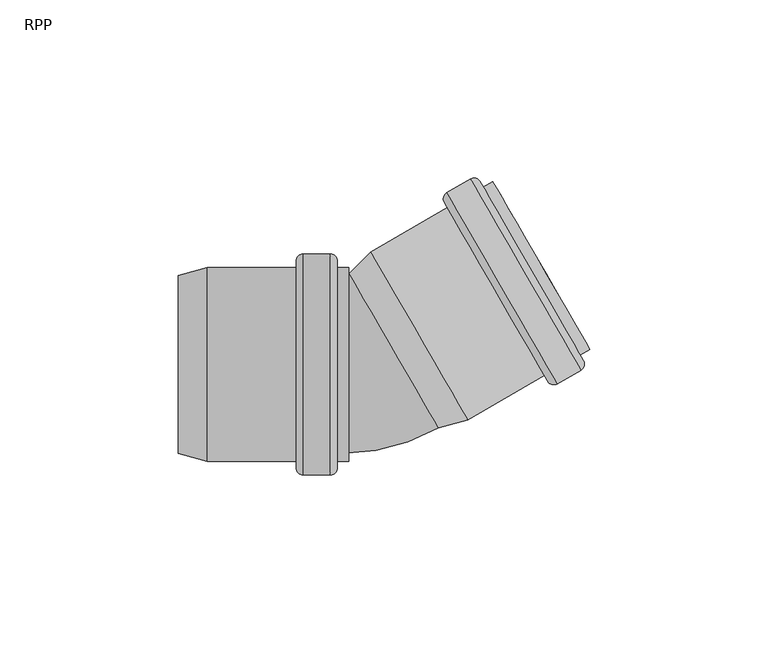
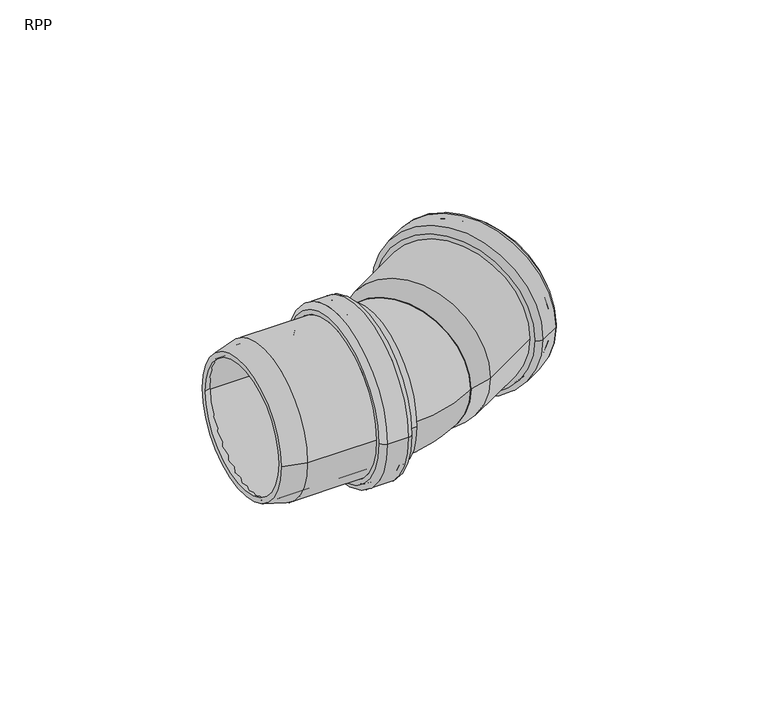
"""IFC4 building model written with IfcOpenShell, lengths in millimetres: pipe fitting geometry, RAUPIANO PLUS Bend : RPP."""

from ifc_helpers import new_model, si_unit, point, frame, origin, place, context, project, spatial, polyline, circle_curve, ellipse_curve, trimmed, source, transform, mapped, element, save
from ifc_brep_helpers import plane_surface, cylinder_surface, revolved_surface, advanced_brep


def rpp_2e0a0249(model_context):
    return source(origin(), model_context, "Body", "AdvancedBrep", [
        advanced_brep(
        [(-18.7705266, -25.3, 0.0), (-18.7705266, 25.3, 0.0), (-45.3098751, 25.3, 0.0), (-45.3098751, -25.3, 0.0), (-18.2705266, -29.1, 0.0), (-18.2705266, 29.1, 0.0), (-18.7705266, 28.6, 0.0), (-18.7705266, -28.6, 0.0), (-11.4705266, -29.1, 0.0), (-11.4705266, 29.1, 0.0), (-10.9705266, -28.6, 0.0), (-10.9705266, 28.6, 0.0), (-5.9705266, -25.3, 0.0), (-5.9705266, 25.3, 0.0), (-10.9705266, 25.3, 0.0), (-10.9705266, -25.3, 0.0), (-9.0705266, -27.2, 0.0), (-9.0705266, 27.2, 0.0), (-5.9705266, 27.2, 0.0), (-5.9705266, -27.2, 0.0), (-11.0705266, -31.0, 0.0), (-11.0705266, 31.0, 0.0), (-9.0705266, 29.0, 0.0), (-9.0705266, -29.0, 0.0), (-18.6705266, -31.0, 0.0), (-18.6705266, 31.0, 0.0), (-20.6705266, -29.0, 0.0), (-20.6705266, 29.0, 0.0), (-45.5600148, -27.2, 0.0), (-45.5600148, 27.2, 0.0), (-20.6705266, 27.2, 0.0), (-20.6705266, -27.2, 0.0), (-53.7705266, -25.0, 0.0), (-53.7705266, 25.0, 0.0), (-53.7705266, 23.0329753, 0.0), (-53.7705266, -23.0329753, 0.0)],
        [
            (0, 1, circle_curve(frame((-18.7705266, 0.0, 0.0), z_axis=(1.0, 0.0, 0.0), x_axis=(0.0, 1.0, 0.0)), 25.3)),
            (1, 2),
            (2, 3, circle_curve(frame((-45.3098751, 0.0, 0.0), z_axis=(-1.0, 0.0, 0.0), x_axis=(0.0, 1.0, 0.0)), 25.3)),
            (3, 0),
            (4, 5, circle_curve(frame((-18.2705266, 0.0, 0.0), z_axis=(1.0, 0.0, 0.0), x_axis=(0.0, 1.0, 0.0)), 29.1)),
            (5, 6, circle_curve(frame((-18.2705266, 28.6, 0.0), z_axis=(0.0, 0.0, 1.0), x_axis=(0.0, -1.0, 0.0)), 0.5)),
            (6, 7, circle_curve(frame((-18.7705266, 0.0, 0.0), z_axis=(-1.0, 0.0, 0.0), x_axis=(0.0, 1.0, 0.0)), 28.6)),
            (7, 4, circle_curve(frame((-18.2705266, -28.6, 0.0), z_axis=(0.0, 0.0, 1.0), x_axis=(0.0, 1.0, 0.0)), 0.5)),
            (8, 9, circle_curve(frame((-11.4705266, 0.0, 0.0), z_axis=(1.0, 0.0, 0.0), x_axis=(0.0, 1.0, 0.0)), 29.1)),
            (9, 5),
            (4, 8),
            (10, 11, circle_curve(frame((-10.9705266, 0.0, 0.0), z_axis=(1.0, 0.0, 0.0), x_axis=(0.0, 1.0, 0.0)), 28.6)),
            (11, 9, circle_curve(frame((-11.4705266, 28.6, 0.0), z_axis=(0.0, 0.0, 1.0), x_axis=(0.0, -1.0, 0.0)), 0.5)),
            (8, 10, circle_curve(frame((-11.4705266, -28.6, 0.0), z_axis=(0.0, 0.0, 1.0), x_axis=(0.0, 1.0, 0.0)), 0.5)),
            (12, 13, circle_curve(frame((-5.9705266, 0.0, 0.0), z_axis=(1.0, 0.0, 0.0), x_axis=(0.0, 1.0, 0.0)), 25.3)),
            (13, 14),
            (14, 15, circle_curve(frame((-10.9705266, 0.0, 0.0), z_axis=(-1.0, 0.0, 0.0), x_axis=(0.0, 1.0, 0.0)), 25.3)),
            (15, 12),
            (16, 17, circle_curve(frame((-9.0705266, 0.0, 0.0), z_axis=(1.0, 0.0, 0.0), x_axis=(0.0, 1.0, 0.0)), 27.2)),
            (17, 18),
            (18, 19, circle_curve(frame((-5.9705266, 0.0, 0.0), z_axis=(-1.0, 0.0, 0.0), x_axis=(0.0, 1.0, 0.0)), 27.2)),
            (19, 16),
            (20, 21, circle_curve(frame((-11.0705266, 0.0, 0.0), z_axis=(1.0, 0.0, 0.0), x_axis=(0.0, 1.0, 0.0)), 31.0)),
            (21, 22, circle_curve(frame((-11.0705266, 29.0, 0.0), z_axis=(0.0, 0.0, -1.0), x_axis=(0.0, -1.0, 0.0)), 2.0)),
            (22, 23, circle_curve(frame((-9.0705266, 0.0, 0.0), z_axis=(-1.0, 0.0, 0.0), x_axis=(0.0, 1.0, 0.0)), 29.0)),
            (23, 20, circle_curve(frame((-11.0705266, -29.0, 0.0), z_axis=(0.0, 0.0, -1.0), x_axis=(0.0, 1.0, 0.0)), 2.0)),
            (24, 25, circle_curve(frame((-18.6705266, 0.0, 0.0), z_axis=(1.0, 0.0, 0.0), x_axis=(0.0, 1.0, 0.0)), 31.0)),
            (25, 21),
            (20, 24),
            (26, 27, circle_curve(frame((-20.6705266, 0.0, 0.0), z_axis=(1.0, 0.0, 0.0), x_axis=(0.0, 1.0, 0.0)), 29.0)),
            (27, 25, circle_curve(frame((-18.6705266, 29.0, 0.0), z_axis=(0.0, 0.0, -1.0), x_axis=(0.0, -1.0, 0.0)), 2.0)),
            (24, 26, circle_curve(frame((-18.6705266, -29.0, 0.0), z_axis=(0.0, 0.0, -1.0), x_axis=(0.0, 1.0, 0.0)), 2.0)),
            (28, 29, circle_curve(frame((-45.5600148, 0.0, 0.0), z_axis=(1.0, 0.0, 0.0), x_axis=(0.0, 1.0, 0.0)), 27.2)),
            (29, 30),
            (30, 31, circle_curve(frame((-20.6705266, 0.0, 0.0), z_axis=(-1.0, 0.0, 0.0), x_axis=(0.0, 1.0, 0.0)), 27.2)),
            (31, 28),
            (32, 33, circle_curve(frame((-53.7705266, 0.0, 0.0), z_axis=(1.0, 0.0, 0.0), x_axis=(0.0, 1.0, 0.0)), 25.0)),
            (33, 29),
            (28, 32),
            (2, 34),
            (34, 35, circle_curve(frame((-53.7705266, 0.0, 0.0), z_axis=(-1.0, 0.0, 0.0), x_axis=(0.0, 1.0, 0.0)), 23.0329753)),
            (35, 3),
            (1, 0, circle_curve(frame((-18.7705266, 0.0, 0.0), z_axis=(1.0, 0.0, 0.0), x_axis=(0.0, -1.0, 0.0)), 25.3)),
            (3, 2, circle_curve(frame((-45.3098751, 0.0, 0.0), z_axis=(-1.0, 0.0, 0.0), x_axis=(0.0, -1.0, 0.0)), 25.3)),
            (6, 7, circle_curve(frame((-18.7705266, 0.0, 0.0), z_axis=(1.0, 0.0, 0.0), x_axis=(0.0, -1.0, 0.0)), 28.6)),
            (5, 4, circle_curve(frame((-18.2705266, 0.0, 0.0), z_axis=(1.0, 0.0, 0.0), x_axis=(0.0, -1.0, 0.0)), 29.1)),
            (9, 8, circle_curve(frame((-11.4705266, 0.0, 0.0), z_axis=(1.0, 0.0, 0.0), x_axis=(0.0, -1.0, 0.0)), 29.1)),
            (11, 10, circle_curve(frame((-10.9705266, 0.0, 0.0), z_axis=(1.0, 0.0, 0.0), x_axis=(0.0, -1.0, 0.0)), 28.6)),
            (14, 15, circle_curve(frame((-10.9705266, 0.0, 0.0), z_axis=(1.0, 0.0, 0.0), x_axis=(0.0, -1.0, 0.0)), 25.3)),
            (13, 12, circle_curve(frame((-5.9705266, 0.0, 0.0), z_axis=(1.0, 0.0, 0.0), x_axis=(0.0, -1.0, 0.0)), 25.3)),
            (18, 19, circle_curve(frame((-5.9705266, 0.0, 0.0), z_axis=(1.0, 0.0, 0.0), x_axis=(0.0, -1.0, 0.0)), 27.2)),
            (17, 16, circle_curve(frame((-9.0705266, 0.0, 0.0), z_axis=(1.0, 0.0, 0.0), x_axis=(0.0, -1.0, 0.0)), 27.2)),
            (22, 23, circle_curve(frame((-9.0705266, 0.0, 0.0), z_axis=(1.0, 0.0, 0.0), x_axis=(0.0, -1.0, 0.0)), 29.0)),
            (21, 20, circle_curve(frame((-11.0705266, 0.0, 0.0), z_axis=(1.0, 0.0, 0.0), x_axis=(0.0, -1.0, 0.0)), 31.0)),
            (25, 24, circle_curve(frame((-18.6705266, 0.0, 0.0), z_axis=(1.0, 0.0, 0.0), x_axis=(0.0, -1.0, 0.0)), 31.0)),
            (27, 26, circle_curve(frame((-20.6705266, 0.0, 0.0), z_axis=(1.0, 0.0, 0.0), x_axis=(0.0, -1.0, 0.0)), 29.0)),
            (30, 31, circle_curve(frame((-20.6705266, 0.0, 0.0), z_axis=(1.0, 0.0, 0.0), x_axis=(0.0, -1.0, 0.0)), 27.2)),
            (29, 28, circle_curve(frame((-45.5600148, 0.0, 0.0), z_axis=(1.0, 0.0, 0.0), x_axis=(0.0, -1.0, 0.0)), 27.2)),
            (33, 32, circle_curve(frame((-53.7705266, 0.0, 0.0), z_axis=(1.0, 0.0, 0.0), x_axis=(0.0, -1.0, 0.0)), 25.0)),
            (34, 35, circle_curve(frame((-53.7705266, 0.0, 0.0), z_axis=(1.0, 0.0, 0.0), x_axis=(0.0, -1.0, 0.0)), 23.0329753)),
        ],
        [
            revolved_surface(polyline([(-45.3098751, 25.3, 0.0), (-18.770526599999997, 25.3, 0.0)]), (-53.7705266, 0.0, 0.0), (-1.0, 0.0, 0.0)),
            revolved_surface(trimmed(ellipse_curve(frame((-18.2705266, 28.6, 0.0), z_axis=(0.0, 0.0, -1.0), x_axis=(0.0, -1.0, 0.0)), 0.5, 0.5), [point((-18.7705266, 28.6, 0.0))], [point((-18.2705266, 29.1, 0.0))], True, "CARTESIAN"), (-53.7705266, 0.0, 0.0), (-1.0, 0.0, 0.0)),
            revolved_surface(polyline([(-18.270526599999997, 29.1, 0.0), (-11.4705266, 29.1, 0.0)]), (-53.7705266, 0.0, 0.0), (-1.0, 0.0, 0.0)),
            revolved_surface(trimmed(ellipse_curve(frame((-11.4705266, 28.6, 0.0), z_axis=(0.0, 0.0, -1.0), x_axis=(0.0, -1.0, 0.0)), 0.5, 0.5), [point((-11.4705266, 29.1, 0.0))], [point((-10.9705266, 28.6, 0.0))], True, "CARTESIAN"), (-53.7705266, 0.0, 0.0), (-1.0, 0.0, 0.0)),
            revolved_surface(polyline([(-10.9705266, 25.3, 0.0), (-5.9705265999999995, 25.3, 0.0)]), (-53.7705266, 0.0, 0.0), (-1.0, 0.0, 0.0)),
            cylinder_surface(frame((-53.7705266, 0.0, 0.0), z_axis=(-1.0, 0.0, 0.0), x_axis=(0.0, 1.0, 0.0)), 27.2),
            revolved_surface(trimmed(ellipse_curve(frame((-11.0705266, 29.0, 0.0), z_axis=(0.0, 0.0, 1.0), x_axis=(0.0, -1.0, 0.0)), 2.0, 2.0), [point((-9.0705266, 29.0, 0.0))], [point((-11.0705266, 31.0, 0.0))], True, "CARTESIAN"), (-53.7705266, 0.0, 0.0), (-1.0, 0.0, 0.0)),
            cylinder_surface(frame((-53.7705266, 0.0, 0.0), z_axis=(-1.0, 0.0, 0.0), x_axis=(0.0, 1.0, 0.0)), 31.0),
            revolved_surface(trimmed(ellipse_curve(frame((-18.6705266, 29.0, 0.0), z_axis=(0.0, 0.0, 1.0), x_axis=(0.0, -1.0, 0.0)), 2.0, 2.0), [point((-18.6705266, 31.0, 0.0))], [point((-20.6705266, 29.0, 0.0))], True, "CARTESIAN"), (-53.7705266, 0.0, 0.0), (-1.0, 0.0, 0.0)),
            revolved_surface(polyline([(-45.5600148, 27.2, 0.0), (-53.7705266, 25.0, 0.0)]), (-53.7705266, 0.0, 0.0), (-1.0, 0.0, 0.0)),
            revolved_surface(polyline([(-53.7705266, 23.0329753, 0.0), (-45.3098751, 25.3, 0.0)]), (-53.7705266, 0.0, 0.0), (-1.0, 0.0, 0.0)),
            revolved_surface(polyline([(-45.3098751, -25.3, 0.0), (-18.770526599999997, -25.3, 0.0)]), (-53.7705266, 0.0, 0.0), (-1.0, 0.0, 0.0)),
            plane_surface(frame((-18.7705266, 0.0, 0.0), z_axis=(1.0, 0.0, 0.0), x_axis=(0.0, -1.0, 0.0))),
            revolved_surface(trimmed(ellipse_curve(frame((-18.2705266, -28.6, 0.0), z_axis=(0.0, 0.0, 1.0), x_axis=(0.0, 1.0, 0.0)), 0.5, 0.5), [point((-18.7705266, -28.6, 0.0))], [point((-18.2705266, -29.1, 0.0))], True, "CARTESIAN"), (-53.7705266, 0.0, 0.0), (-1.0, 0.0, 0.0)),
            revolved_surface(polyline([(-18.270526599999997, -29.1, 0.0), (-11.4705266, -29.1, 0.0)]), (-53.7705266, 0.0, 0.0), (-1.0, 0.0, 0.0)),
            revolved_surface(trimmed(ellipse_curve(frame((-11.4705266, -28.6, 0.0), z_axis=(0.0, 0.0, 1.0), x_axis=(0.0, 1.0, 0.0)), 0.5, 0.5), [point((-11.4705266, -29.1, 0.0))], [point((-10.9705266, -28.6, 0.0))], True, "CARTESIAN"), (-53.7705266, 0.0, 0.0), (-1.0, 0.0, 0.0)),
            plane_surface(frame((-10.9705266, 0.0, 0.0), z_axis=(-1.0, 0.0, 0.0), x_axis=(0.0, -1.0, 0.0))),
            revolved_surface(polyline([(-10.9705266, -25.3, 0.0), (-5.9705265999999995, -25.3, 0.0)]), (-53.7705266, 0.0, 0.0), (-1.0, 0.0, 0.0)),
            plane_surface(frame((-5.9705266, 0.0, 0.0), z_axis=(1.0, 0.0, 0.0), x_axis=(0.0, -1.0, 0.0))),
            cylinder_surface(frame((-53.7705266, 0.0, 0.0), z_axis=(-1.0, 0.0, 0.0), x_axis=(0.0, -1.0, 0.0)), 27.2),
            plane_surface(frame((-9.0705266, 0.0, 0.0), z_axis=(1.0, 0.0, 0.0), x_axis=(0.0, -1.0, 0.0))),
            revolved_surface(trimmed(ellipse_curve(frame((-11.0705266, -29.0, 0.0), z_axis=(0.0, 0.0, -1.0), x_axis=(0.0, 1.0, 0.0)), 2.0, 2.0), [point((-9.0705266, -29.0, 0.0))], [point((-11.0705266, -31.0, 0.0))], True, "CARTESIAN"), (-53.7705266, 0.0, 0.0), (-1.0, 0.0, 0.0)),
            cylinder_surface(frame((-53.7705266, 0.0, 0.0), z_axis=(-1.0, 0.0, 0.0), x_axis=(0.0, -1.0, 0.0)), 31.0),
            revolved_surface(trimmed(ellipse_curve(frame((-18.6705266, -29.0, 0.0), z_axis=(0.0, 0.0, -1.0), x_axis=(0.0, 1.0, 0.0)), 2.0, 2.0), [point((-18.6705266, -31.0, 0.0))], [point((-20.6705266, -29.0, 0.0))], True, "CARTESIAN"), (-53.7705266, 0.0, 0.0), (-1.0, 0.0, 0.0)),
            plane_surface(frame((-20.6705266, 0.0, 0.0), z_axis=(-1.0, 0.0, 0.0), x_axis=(0.0, -1.0, 0.0))),
            revolved_surface(polyline([(-45.5600148, -27.2, 0.0), (-53.7705266, -25.0, 0.0)]), (-53.7705266, 0.0, 0.0), (-1.0, 0.0, 0.0)),
            plane_surface(frame((-53.7705266, 0.0, 0.0), z_axis=(-1.0, 0.0, 0.0), x_axis=(0.0, -1.0, 0.0))),
            revolved_surface(polyline([(-53.7705266, -23.0329753, 0.0), (-45.3098751, -25.3, 0.0)]), (-53.7705266, 0.0, 0.0), (-1.0, 0.0, 0.0)),
        ],
        [
            (0, [[1, 2, 3, 4]]),
            (1, [[5, 6, 7, 8]]),
            (2, [[9, 10, -5, 11]]),
            (3, [[12, 13, -9, 14]]),
            (4, [[15, 16, 17, 18]]),
            (5, [[19, 20, 21, 22]]),
            (6, [[23, 24, 25, 26]]),
            (7, [[27, 28, -23, 29]]),
            (8, [[30, 31, -27, 32]]),
            (5, [[33, 34, 35, 36]]),
            (9, [[37, 38, -33, 39]]),
            (10, [[-3, 40, 41, 42]]),
            (11, [[43, -4, 44, -2]]),
            (12, [[45, -7], [-43, -1]]),
            (13, [[46, -8, -45, -6]]),
            (14, [[47, -11, -46, -10]]),
            (15, [[48, -14, -47, -13]]),
            (16, [[-48, -12], [49, -17]]),
            (17, [[50, -18, -49, -16]]),
            (18, [[51, -21], [-50, -15]]),
            (19, [[52, -22, -51, -20]]),
            (20, [[53, -25], [-52, -19]]),
            (21, [[54, -26, -53, -24]]),
            (22, [[55, -29, -54, -28]]),
            (23, [[56, -32, -55, -31]]),
            (24, [[-56, -30], [57, -35]]),
            (19, [[58, -36, -57, -34]]),
            (25, [[59, -39, -58, -38]]),
            (26, [[-59, -37], [60, -41]]),
            (27, [[-44, -42, -60, -40]]),
        ],
    ),
        advanced_brep(
        [(18.245961, -16.0618784, 0.0), (-4.7870142, 23.832405, 0.0), (1.4066126, 30.0260318, 0.0), (26.7066126, -13.7948537, 0.0), (27.4399852, -15.5653718, 0.0), (0.2399852, 31.5464102, 0.0), (-5.7705266, 25.5358984, 0.0), (19.2294734, -17.7653718, 0.0), (48.9949143, -3.1206277, 0.0), (21.7949143, 43.9911543, 0.0), (59.2087582, -1.6115242, 0.0), (28.2087582, 52.0820508, 0.0), (21.6269651, 48.2820508, 0.0), (52.6269651, -5.4115242, 0.0), (61.7254877, 4.2293723, 0.0), (34.5254877, 51.3411543, 0.0), (31.840809, 49.7911543, 0.0), (59.040809, 2.6793723, 0.0), (56.4453607, 3.3748206, 0.0), (31.1453607, 47.195706, 0.0), (35.4754877, 49.695706, 0.0), (60.7754877, 5.8748206, 0.0), (52.0233753, -3.566076, 0.0), (22.9233753, 46.8366025, 0.0), (28.812348, 50.2366025, 0.0), (57.912348, -0.166076, 0.0), (24.3903626, 43.295706, 0.0), (49.6903626, -0.5251794, 0.0), (20.8949143, 45.55, 0.0), (49.8949143, -4.6794734, 0.0), (59.940809, 1.1205266, 0.0), (30.940809, 51.35, 0.0), (29.4953607, 50.0535898, 0.0), (58.0953607, 0.5169367, 0.0), (51.3403626, -3.3830633, 0.0), (22.7403626, 46.1535898, 0.0)],
        [
            (0, 1, circle_curve(frame((6.7294734, 3.8852633, 0.0), z_axis=(-0.8660254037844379, -0.5000000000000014, 0.0), x_axis=(-0.5000000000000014, 0.8660254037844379, 0.0)), 23.0329753)),
            (1, 2),
            (2, 3, circle_curve(frame((14.0566126, 8.1155891, 0.0), z_axis=(0.8660254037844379, 0.5000000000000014, 0.0), x_axis=(-0.5000000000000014, 0.8660254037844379, 0.0)), 25.3)),
            (3, 0),
            (4, 5, circle_curve(frame((13.8399852, 7.9905192, 0.0), z_axis=(-0.8660254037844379, -0.5000000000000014, 0.0), x_axis=(-0.5000000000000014, 0.8660254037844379, 0.0)), 27.2)),
            (5, 6),
            (6, 7, circle_curve(frame((6.7294734, 3.8852633, 0.0), z_axis=(0.8660254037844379, 0.5000000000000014, 0.0), x_axis=(-0.5000000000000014, 0.8660254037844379, 0.0)), 25.0)),
            (7, 4),
            (8, 9, circle_curve(frame((35.3949143, 20.4352633, 0.0), z_axis=(-0.8660254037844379, -0.5000000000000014, 0.0), x_axis=(-0.5000000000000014, 0.8660254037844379, 0.0)), 27.2)),
            (9, 5),
            (4, 8),
            (10, 11, circle_curve(frame((43.7087582, 25.2352633, 0.0), z_axis=(-0.8660254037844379, -0.5000000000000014, 0.0), x_axis=(-0.5000000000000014, 0.8660254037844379, 0.0)), 31.0)),
            (11, 12),
            (12, 13, circle_curve(frame((37.1269651, 21.4352633, 0.0), z_axis=(0.8660254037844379, 0.5000000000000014, 0.0), x_axis=(-0.5000000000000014, 0.8660254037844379, 0.0)), 31.0)),
            (13, 10),
            (14, 15, circle_curve(frame((48.1254877, 27.7852633, 0.0), z_axis=(-0.8660254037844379, -0.5000000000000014, 0.0), x_axis=(-0.5000000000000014, 0.8660254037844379, 0.0)), 27.2)),
            (15, 16),
            (16, 17, circle_curve(frame((45.440809, 26.2352633, 0.0), z_axis=(0.8660254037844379, 0.5000000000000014, 0.0), x_axis=(-0.5000000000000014, 0.8660254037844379, 0.0)), 27.2)),
            (17, 14),
            (18, 19, circle_curve(frame((43.7953607, 25.2852633, 0.0), z_axis=(-0.8660254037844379, -0.5000000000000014, 0.0), x_axis=(-0.5000000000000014, 0.8660254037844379, 0.0)), 25.3)),
            (19, 20),
            (20, 21, circle_curve(frame((48.1254877, 27.7852633, 0.0), z_axis=(0.8660254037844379, 0.5000000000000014, 0.0), x_axis=(-0.5000000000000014, 0.8660254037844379, 0.0)), 25.3)),
            (21, 18),
            (22, 23, circle_curve(frame((37.4733753, 21.6352633, 0.0), z_axis=(-0.8660254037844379, -0.5000000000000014, 0.0), x_axis=(-0.5000000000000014, 0.8660254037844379, 0.0)), 29.1)),
            (23, 24),
            (24, 25, circle_curve(frame((43.362348, 25.0352633, 0.0), z_axis=(0.8660254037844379, 0.5000000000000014, 0.0), x_axis=(-0.5000000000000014, 0.8660254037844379, 0.0)), 29.1)),
            (25, 22),
            (2, 26),
            (26, 27, circle_curve(frame((37.0403626, 21.3852633, 0.0), z_axis=(0.8660254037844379, 0.5000000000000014, 0.0), x_axis=(-0.5000000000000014, 0.8660254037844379, 0.0)), 25.3)),
            (27, 3),
            (1, 0, circle_curve(frame((6.7294734, 3.8852633, 0.0), z_axis=(-0.8660254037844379, -0.5000000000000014, 0.0), x_axis=(0.5000000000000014, -0.8660254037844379, 0.0)), 23.0329753)),
            (3, 2, circle_curve(frame((14.0566126, 8.1155891, 0.0), z_axis=(0.8660254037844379, 0.5000000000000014, 0.0), x_axis=(0.5000000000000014, -0.8660254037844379, 0.0)), 25.3)),
            (6, 7, circle_curve(frame((6.7294734, 3.8852633, 0.0), z_axis=(-0.8660254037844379, -0.5000000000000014, 0.0), x_axis=(0.5000000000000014, -0.8660254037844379, 0.0)), 25.0)),
            (5, 4, circle_curve(frame((13.8399852, 7.9905192, 0.0), z_axis=(-0.8660254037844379, -0.5000000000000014, 0.0), x_axis=(0.5000000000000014, -0.8660254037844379, 0.0)), 27.2)),
            (9, 8, circle_curve(frame((35.3949143, 20.4352633, 0.0), z_axis=(-0.8660254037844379, -0.5000000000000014, 0.0), x_axis=(0.5000000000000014, -0.8660254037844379, 0.0)), 27.2)),
            (28, 29, circle_curve(frame((35.3949143, 20.4352633, 0.0), z_axis=(-0.8660254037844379, -0.5000000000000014, 0.0), x_axis=(0.5000000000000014, -0.8660254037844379, 0.0)), 29.0)),
            (29, 28, circle_curve(frame((35.3949143, 20.4352633, 0.0), z_axis=(-0.8660254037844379, -0.5000000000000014, 0.0), x_axis=(-0.5000000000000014, 0.8660254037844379, 0.0)), 29.0)),
            (11, 10, circle_curve(frame((43.7087582, 25.2352633, 0.0), z_axis=(-0.8660254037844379, -0.5000000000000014, 0.0), x_axis=(0.5000000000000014, -0.8660254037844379, 0.0)), 31.0)),
            (13, 12, circle_curve(frame((37.1269651, 21.4352633, 0.0), z_axis=(0.8660254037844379, 0.5000000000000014, 0.0), x_axis=(0.5000000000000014, -0.8660254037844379, 0.0)), 31.0)),
            (30, 31, circle_curve(frame((45.440809, 26.2352633, 0.0), z_axis=(0.8660254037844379, 0.5000000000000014, 0.0), x_axis=(0.5000000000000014, -0.8660254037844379, 0.0)), 29.0)),
            (31, 30, circle_curve(frame((45.440809, 26.2352633, 0.0), z_axis=(0.8660254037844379, 0.5000000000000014, 0.0), x_axis=(-0.5000000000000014, 0.8660254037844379, 0.0)), 29.0)),
            (16, 17, circle_curve(frame((45.440809, 26.2352633, 0.0), z_axis=(-0.8660254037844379, -0.5000000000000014, 0.0), x_axis=(0.5000000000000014, -0.8660254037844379, 0.0)), 27.2)),
            (15, 14, circle_curve(frame((48.1254877, 27.7852633, 0.0), z_axis=(-0.8660254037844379, -0.5000000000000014, 0.0), x_axis=(0.5000000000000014, -0.8660254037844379, 0.0)), 27.2)),
            (20, 21, circle_curve(frame((48.1254877, 27.7852633, 0.0), z_axis=(-0.8660254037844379, -0.5000000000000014, 0.0), x_axis=(0.5000000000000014, -0.8660254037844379, 0.0)), 25.3)),
            (19, 18, circle_curve(frame((43.7953607, 25.2852633, 0.0), z_axis=(-0.8660254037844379, -0.5000000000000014, 0.0), x_axis=(0.5000000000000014, -0.8660254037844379, 0.0)), 25.3)),
            (32, 33, circle_curve(frame((43.7953607, 25.2852633, 0.0), z_axis=(-0.8660254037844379, -0.5000000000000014, 0.0), x_axis=(0.5000000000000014, -0.8660254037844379, 0.0)), 28.6)),
            (33, 32, circle_curve(frame((43.7953607, 25.2852633, 0.0), z_axis=(-0.8660254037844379, -0.5000000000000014, 0.0), x_axis=(-0.5000000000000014, 0.8660254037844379, 0.0)), 28.6)),
            (23, 22, circle_curve(frame((37.4733753, 21.6352633, 0.0), z_axis=(-0.8660254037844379, -0.5000000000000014, 0.0), x_axis=(0.5000000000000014, -0.8660254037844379, 0.0)), 29.1)),
            (25, 24, circle_curve(frame((43.362348, 25.0352633, 0.0), z_axis=(0.8660254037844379, 0.5000000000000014, 0.0), x_axis=(0.5000000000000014, -0.8660254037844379, 0.0)), 29.1)),
            (34, 35, circle_curve(frame((37.0403626, 21.3852633, 0.0), z_axis=(0.8660254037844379, 0.5000000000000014, 0.0), x_axis=(0.5000000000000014, -0.8660254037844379, 0.0)), 28.6)),
            (35, 34, circle_curve(frame((37.0403626, 21.3852633, 0.0), z_axis=(0.8660254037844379, 0.5000000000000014, 0.0), x_axis=(-0.5000000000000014, 0.8660254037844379, 0.0)), 28.6)),
            (26, 27, circle_curve(frame((37.0403626, 21.3852633, 0.0), z_axis=(-0.8660254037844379, -0.5000000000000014, 0.0), x_axis=(0.5000000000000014, -0.8660254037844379, 0.0)), 25.3)),
            (12, 28, circle_curve(frame((22.6269651, 46.55, 0.0), z_axis=(0.0, 0.0, 1.0000000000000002), x_axis=(0.5000000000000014, -0.8660254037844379, 0.0)), 2.0)),
            (29, 13, circle_curve(frame((51.6269651, -3.6794734, 0.0), z_axis=(0.0, 0.0, 1.0000000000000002), x_axis=(-0.5000000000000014, 0.8660254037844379, 0.0)), 2.0)),
            (31, 11, circle_curve(frame((29.2087582, 50.35, 0.0), z_axis=(0.0, 0.0, 1.0000000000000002), x_axis=(0.5000000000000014, -0.8660254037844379, 0.0)), 2.0)),
            (10, 30, circle_curve(frame((58.2087582, 0.1205266, 0.0), z_axis=(0.0, 0.0, 1.0000000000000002), x_axis=(-0.5000000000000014, 0.8660254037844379, 0.0)), 2.0)),
            (24, 32, circle_curve(frame((29.062348, 49.8035898, 0.0), z_axis=(0.0, 0.0, -1.0000000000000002), x_axis=(0.5000000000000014, -0.8660254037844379, 0.0)), 0.5)),
            (33, 25, circle_curve(frame((57.662348, 0.2669367, 0.0), z_axis=(0.0, 0.0, -1.0000000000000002), x_axis=(-0.5000000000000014, 0.8660254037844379, 0.0)), 0.5)),
            (35, 23, circle_curve(frame((23.1733753, 46.4035898, 0.0), z_axis=(0.0, 0.0, -1.0000000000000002), x_axis=(0.5000000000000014, -0.8660254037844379, 0.0)), 0.5)),
            (22, 34, circle_curve(frame((51.7733753, -3.1330633, 0.0), z_axis=(0.0, 0.0, -1.0000000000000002), x_axis=(-0.5000000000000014, 0.8660254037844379, 0.0)), 0.5)),
        ],
        [
            revolved_surface(polyline([(1.4066126, 30.0260318, 0.0), (-4.7870142, 23.832405, 0.0)]), (6.7294734, 3.8852633, 0.0), (0.8660254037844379, 0.5000000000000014, 0.0)),
            revolved_surface(polyline([(-5.7705266, 25.5358984, 0.0), (0.2399852, 31.5464102, 0.0)]), (6.7294734, 3.8852633, 0.0), (0.8660254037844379, 0.5000000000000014, 0.0)),
            cylinder_surface(frame((6.7294734, 3.8852633, 0.0), z_axis=(0.8660254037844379, 0.5000000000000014, 0.0), x_axis=(-0.5000000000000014, 0.8660254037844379, 0.0)), 27.2),
            cylinder_surface(frame((6.7294734, 3.8852633, 0.0), z_axis=(0.8660254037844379, 0.5000000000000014, 0.0), x_axis=(-0.5000000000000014, 0.8660254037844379, 0.0)), 31.0),
            revolved_surface(polyline([(35.475487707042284, 49.69570601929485, 0.0), (31.14536068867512, 47.19570601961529, 0.0)]), (6.7294734, 3.8852633, 0.0), (0.8660254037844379, 0.5000000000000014, 0.0)),
            revolved_surface(polyline([(28.81234799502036, 50.236602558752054, 0.0), (22.923375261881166, 46.836602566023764, 0.0)]), (6.7294734, 3.8852633, 0.0), (0.8660254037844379, 0.5000000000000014, 0.0)),
            revolved_surface(polyline([(24.390362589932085, 43.295706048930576, 0.0), (1.4066125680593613, 30.026031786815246, 0.0)]), (6.7294734, 3.8852633, 0.0), (0.8660254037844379, 0.5000000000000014, 0.0)),
            revolved_surface(polyline([(26.7066126, -13.7948537, 0.0), (18.245961, -16.0618784, 0.0)]), (6.7294734, 3.8852633, 0.0), (0.8660254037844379, 0.5000000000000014, 0.0)),
            plane_surface(frame((6.7294734, 3.8852633, 0.0), z_axis=(-0.8660254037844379, -0.5000000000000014, 0.0), x_axis=(0.5000000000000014, -0.8660254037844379, 0.0))),
            revolved_surface(polyline([(19.2294734, -17.7653718, 0.0), (27.4399852, -15.5653718, 0.0)]), (6.7294734, 3.8852633, 0.0), (0.8660254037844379, 0.5000000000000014, 0.0)),
            cylinder_surface(frame((6.7294734, 3.8852633, 0.0), z_axis=(0.8660254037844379, 0.5000000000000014, 0.0), x_axis=(0.5000000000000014, -0.8660254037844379, 0.0)), 27.2),
            plane_surface(frame((35.3949143, 20.4352633, 0.0), z_axis=(-0.8660254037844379, -0.5000000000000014, 0.0), x_axis=(0.5000000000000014, -0.8660254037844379, 0.0))),
            cylinder_surface(frame((6.7294734, 3.8852633, 0.0), z_axis=(0.8660254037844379, 0.5000000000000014, 0.0), x_axis=(0.5000000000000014, -0.8660254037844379, 0.0)), 31.0),
            plane_surface(frame((45.440809, 26.2352633, 0.0), z_axis=(0.8660254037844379, 0.5000000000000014, 0.0), x_axis=(0.5000000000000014, -0.8660254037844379, 0.0))),
            plane_surface(frame((48.1254877, 27.7852633, 0.0), z_axis=(0.8660254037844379, 0.5000000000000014, 0.0), x_axis=(0.5000000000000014, -0.8660254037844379, 0.0))),
            revolved_surface(polyline([(60.77548770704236, 5.87482058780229, 0.0), (56.445360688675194, 3.374820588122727, 0.0)]), (6.7294734, 3.8852633, 0.0), (0.8660254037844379, 0.5000000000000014, 0.0)),
            plane_surface(frame((43.7953607, 25.2852633, 0.0), z_axis=(-0.8660254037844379, -0.5000000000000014, 0.0), x_axis=(0.5000000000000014, -0.8660254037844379, 0.0))),
            revolved_surface(polyline([(57.91234799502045, -0.16607594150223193, 0.0), (52.023375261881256, -3.5660759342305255, 0.0)]), (6.7294734, 3.8852633, 0.0), (0.8660254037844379, 0.5000000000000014, 0.0)),
            plane_surface(frame((37.0403626, 21.3852633, 0.0), z_axis=(0.8660254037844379, 0.5000000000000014, 0.0), x_axis=(0.5000000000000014, -0.8660254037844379, 0.0))),
            revolved_surface(polyline([(49.690362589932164, -0.525179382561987, 0.0), (26.706612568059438, -13.79485364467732, 0.0)]), (6.7294734, 3.8852633, 0.0), (0.8660254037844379, 0.5000000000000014, 0.0)),
            revolved_surface(trimmed(ellipse_curve(frame((22.6269651, 46.55, 0.0), z_axis=(0.0, 0.0, -1.0000000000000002), x_axis=(0.5000000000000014, -0.8660254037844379, 0.0)), 2.0, 2.0), [point((20.8949143, 45.55, 0.0))], [point((21.6269651, 48.2820508, 0.0))], True, "CARTESIAN"), (6.7294734, 3.8852633, 0.0), (0.8660254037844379, 0.5000000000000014, 0.0)),
            revolved_surface(trimmed(ellipse_curve(frame((29.2087582, 50.35, 0.0), z_axis=(0.0, 0.0, -1.0000000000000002), x_axis=(0.5000000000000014, -0.8660254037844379, 0.0)), 2.0, 2.0), [point((28.2087582, 52.0820508, 0.0))], [point((30.940809, 51.35, 0.0))], True, "CARTESIAN"), (6.7294734, 3.8852633, 0.0), (0.8660254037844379, 0.5000000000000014, 0.0)),
            revolved_surface(trimmed(ellipse_curve(frame((29.062348, 49.8035898, 0.0), z_axis=(0.0, 0.0, 1.0000000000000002), x_axis=(0.5000000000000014, -0.8660254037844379, 0.0)), 0.5, 0.5), [point((29.4953607, 50.0535898, 0.0))], [point((28.812348, 50.2366025, 0.0))], True, "CARTESIAN"), (6.7294734, 3.8852633, 0.0), (0.8660254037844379, 0.5000000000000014, 0.0)),
            revolved_surface(trimmed(ellipse_curve(frame((23.1733753, 46.4035898, 0.0), z_axis=(0.0, 0.0, 1.0000000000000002), x_axis=(0.5000000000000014, -0.8660254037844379, 0.0)), 0.5, 0.5), [point((22.9233753, 46.8366025, 0.0))], [point((22.7403626, 46.1535898, 0.0))], True, "CARTESIAN"), (6.7294734, 3.8852633, 0.0), (0.8660254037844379, 0.5000000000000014, 0.0)),
            revolved_surface(trimmed(ellipse_curve(frame((51.6269651, -3.6794734, 0.0), z_axis=(0.0, 0.0, 1.0000000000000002), x_axis=(-0.5000000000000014, 0.8660254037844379, 0.0)), 2.0, 2.0), [point((49.8949143, -4.6794734, 0.0))], [point((52.6269651, -5.4115242, 0.0))], True, "CARTESIAN"), (6.7294734, 3.8852633, 0.0), (0.8660254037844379, 0.5000000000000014, 0.0)),
            revolved_surface(trimmed(ellipse_curve(frame((58.2087582, 0.1205266, 0.0), z_axis=(0.0, 0.0, 1.0000000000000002), x_axis=(-0.5000000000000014, 0.8660254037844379, 0.0)), 2.0, 2.0), [point((59.2087582, -1.6115242, 0.0))], [point((59.940809, 1.1205266, 0.0))], True, "CARTESIAN"), (6.7294734, 3.8852633, 0.0), (0.8660254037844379, 0.5000000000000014, 0.0)),
            revolved_surface(trimmed(ellipse_curve(frame((57.662348, 0.2669367, 0.0), z_axis=(0.0, 0.0, -1.0000000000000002), x_axis=(-0.5000000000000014, 0.8660254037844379, 0.0)), 0.5, 0.5), [point((58.0953607, 0.5169367, 0.0))], [point((57.912348, -0.166076, 0.0))], True, "CARTESIAN"), (6.7294734, 3.8852633, 0.0), (0.8660254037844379, 0.5000000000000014, 0.0)),
            revolved_surface(trimmed(ellipse_curve(frame((51.7733753, -3.1330633, 0.0), z_axis=(0.0, 0.0, -1.0000000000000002), x_axis=(-0.5000000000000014, 0.8660254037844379, 0.0)), 0.5, 0.5), [point((52.0233753, -3.566076, 0.0))], [point((51.3403626, -3.3830633, 0.0))], True, "CARTESIAN"), (6.7294734, 3.8852633, 0.0), (0.8660254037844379, 0.5000000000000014, 0.0)),
        ],
        [
            (0, [[1, 2, 3, 4]]),
            (1, [[5, 6, 7, 8]]),
            (2, [[9, 10, -5, 11]]),
            (3, [[12, 13, 14, 15]]),
            (2, [[16, 17, 18, 19]]),
            (4, [[20, 21, 22, 23]]),
            (5, [[24, 25, 26, 27]]),
            (6, [[-3, 28, 29, 30]]),
            (7, [[31, -4, 32, -2]]),
            (8, [[33, -7], [-31, -1]]),
            (9, [[34, -8, -33, -6]]),
            (10, [[35, -11, -34, -10]]),
            (11, [[36, 37], [-35, -9]]),
            (12, [[38, -15, 39, -13]]),
            (13, [[40, 41], [42, -18]]),
            (10, [[43, -19, -42, -17]]),
            (14, [[-43, -16], [44, -22]]),
            (15, [[45, -23, -44, -21]]),
            (16, [[46, 47], [-45, -20]]),
            (17, [[48, -27, 49, -25]]),
            (18, [[50, 51], [52, -29]]),
            (19, [[-32, -30, -52, -28]]),
            (20, [[-14, 53, -37, 54]]),
            (21, [[-41, 55, -12, 56]]),
            (22, [[-26, 57, -47, 58]]),
            (23, [[-51, 59, -24, 60]]),
            (24, [[-39, -54, -36, -53]]),
            (25, [[-40, -56, -38, -55]]),
            (26, [[-49, -58, -46, -57]]),
            (27, [[-50, -60, -48, -59]]),
        ],
    ),
        advanced_brep(
        [(-7.7705266, 23.2, 0.0), (-7.7705266, -23.2, 0.0), (-53.7705266, -23.2, 0.0), (-53.7705266, 23.2, 0.0), (-50.0384758, 25.0, 0.0), (-50.0384758, -25.0, 0.0), (-7.7705266, -25.0, 0.0), (-7.7705266, 25.0, 0.0), (-53.7705266, 24.0, 0.0), (-53.7705266, -24.0, 0.0)],
        [
            (0, 1, circle_curve(frame((-7.7705266, 0.0, 0.0), z_axis=(1.0, 0.0, 0.0), x_axis=(0.0, -1.0, 0.0)), 23.2)),
            (1, 2),
            (2, 3, circle_curve(frame((-53.7705266, 0.0, 0.0), z_axis=(-1.0, 0.0, 0.0), x_axis=(0.0, -1.0, 0.0)), 23.2)),
            (3, 0),
            (4, 5, circle_curve(frame((-50.0384758, 0.0, 0.0), z_axis=(1.0, 0.0, 0.0), x_axis=(0.0, -1.0, 0.0)), 25.0)),
            (5, 6),
            (6, 7, circle_curve(frame((-7.7705266, 0.0, 0.0), z_axis=(-1.0, 0.0, 0.0), x_axis=(0.0, -1.0, 0.0)), 25.0)),
            (7, 4),
            (8, 9, circle_curve(frame((-53.7705266, 0.0, 0.0), z_axis=(1.0, 0.0, 0.0), x_axis=(0.0, -1.0, 0.0)), 24.0)),
            (9, 5),
            (4, 8),
            (1, 0, circle_curve(frame((-7.7705266, 0.0, 0.0), z_axis=(1.0, 0.0, 0.0), x_axis=(0.0, 1.0, 0.0)), 23.2)),
            (3, 2, circle_curve(frame((-53.7705266, 0.0, 0.0), z_axis=(-1.0, 0.0, 0.0), x_axis=(0.0, 1.0, 0.0)), 23.2)),
            (6, 7, circle_curve(frame((-7.7705266, 0.0, 0.0), z_axis=(1.0, 0.0, 0.0), x_axis=(0.0, 1.0, 0.0)), 25.0)),
            (5, 4, circle_curve(frame((-50.0384758, 0.0, 0.0), z_axis=(1.0, 0.0, 0.0), x_axis=(0.0, 1.0, 0.0)), 25.0)),
            (9, 8, circle_curve(frame((-53.7705266, 0.0, 0.0), z_axis=(1.0, 0.0, 0.0), x_axis=(0.0, 1.0, 0.0)), 24.0)),
        ],
        [
            revolved_surface(polyline([(-53.7705266, -23.2, 0.0), (-7.7705266, -23.2, 0.0)]), (-7.7705266, 0.0, 0.0), (-1.0, 0.0, 0.0)),
            cylinder_surface(frame((-7.7705266, 0.0, 0.0), z_axis=(-1.0, 0.0, 0.0), x_axis=(0.0, -1.0, 0.0)), 25.0),
            revolved_surface(polyline([(-50.0384758, -25.0, 0.0), (-53.7705266, -24.0, 0.0)]), (-7.7705266, 0.0, 0.0), (-1.0, 0.0, 0.0)),
            revolved_surface(polyline([(-53.7705266, 23.2, 0.0), (-7.7705266, 23.2, 0.0)]), (-7.7705266, 0.0, 0.0), (-1.0, 0.0, 0.0)),
            plane_surface(frame((-7.7705266, 0.0, 0.0), z_axis=(1.0, 0.0, 0.0), x_axis=(0.0, 1.0, 0.0))),
            cylinder_surface(frame((-7.7705266, 0.0, 0.0), z_axis=(-1.0, 0.0, 0.0), x_axis=(0.0, 1.0, 0.0)), 25.0),
            revolved_surface(polyline([(-50.0384758, 25.0, 0.0), (-53.7705266, 24.0, 0.0)]), (-7.7705266, 0.0, 0.0), (-1.0, 0.0, 0.0)),
            plane_surface(frame((-53.7705266, 0.0, 0.0), z_axis=(-1.0, 0.0, 0.0), x_axis=(0.0, 1.0, 0.0))),
        ],
        [
            (0, [[1, 2, 3, 4]]),
            (1, [[5, 6, 7, 8]]),
            (2, [[9, 10, -5, 11]]),
            (3, [[12, -4, 13, -2]]),
            (4, [[14, -7], [-12, -1]]),
            (5, [[15, -8, -14, -6]]),
            (6, [[16, -11, -15, -10]]),
            (7, [[-16, -9], [-13, -3]]),
        ],
    ),
        advanced_brep(
        [(-7.7705266, -25.0, 0.0), (-7.7705266, 25.0, 0.0), (-7.7705266, -23.2, 0.0), (-7.7705266, 23.2, 0.0), (19.2294734, -17.7653718, 0.0), (-5.7705266, 25.5358984, 0.0), (18.3294734, -16.2065261, 0.0), (-4.8705266, 23.9770527, 0.0)],
        [
            (0, 1, circle_curve(frame((-7.7705266, 0.0, 0.0), z_axis=(-1.0, 0.0, 0.0), x_axis=(0.0, 1.0, 0.0)), 25.0)),
            (1, 0, circle_curve(frame((-7.7705266, 0.0, 0.0), z_axis=(-1.0, 0.0, 0.0), x_axis=(0.0, 1.0, 0.0)), 25.0)),
            (2, 3, circle_curve(frame((-7.7705266, 0.0, 0.0), z_axis=(1.0, 0.0, 0.0), x_axis=(0.0, 1.0, 0.0)), 23.2)),
            (3, 2, circle_curve(frame((-7.7705266, 0.0, 0.0), z_axis=(1.0, 0.0, 0.0), x_axis=(0.0, 1.0, 0.0)), 23.2)),
            (4, 5, circle_curve(frame((6.7294734, 3.8852633, 0.0), z_axis=(0.8660254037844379, 0.5000000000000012, 0.0), x_axis=(-0.5000000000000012, 0.8660254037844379, 0.0)), 25.0)),
            (5, 4, circle_curve(frame((6.7294734, 3.8852633, 0.0), z_axis=(0.8660254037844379, 0.5000000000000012, 0.0), x_axis=(-0.5000000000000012, 0.8660254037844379, 0.0)), 25.0)),
            (6, 7, circle_curve(frame((6.7294734, 3.8852633, 0.0), z_axis=(-0.8660254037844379, -0.5000000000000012, 0.0), x_axis=(-0.5000000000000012, 0.8660254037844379, 0.0)), 23.2)),
            (7, 6, circle_curve(frame((6.7294734, 3.8852633, 0.0), z_axis=(-0.8660254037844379, -0.5000000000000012, 0.0), x_axis=(-0.5000000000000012, 0.8660254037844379, 0.0)), 23.2)),
            (7, 3, circle_curve(frame((-7.7705266, 29.0, 0.0), z_axis=(0.0, 0.0, -1.0), x_axis=(0.0, -1.0, 0.0)), 5.8)),
            (2, 6, circle_curve(frame((-7.7705266, 29.0, 0.0), z_axis=(0.0, 0.0, 1.0), x_axis=(0.0, -1.0, 0.0)), 52.2)),
            (5, 1, circle_curve(frame((-7.7705266, 29.0, 0.0), z_axis=(0.0, 0.0, -1.0), x_axis=(0.0, -1.0, 0.0)), 4.0)),
            (0, 4, circle_curve(frame((-7.7705266, 29.0, 0.0), z_axis=(0.0, 0.0, 1.0), x_axis=(0.0, -1.0, 0.0)), 54.0)),
        ],
        [
            plane_surface(frame((-7.7705266, 0.0, 0.0), z_axis=(-1.0, 0.0, 0.0), x_axis=(0.0, 0.0, 1.0))),
            plane_surface(frame((6.7294734, 3.8852633, 0.0), z_axis=(0.866025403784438, 0.5000000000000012, 0.0), x_axis=(0.0, 0.0, 1.0))),
            revolved_surface(trimmed(ellipse_curve(frame((-7.7705266, 0.0, 0.0), z_axis=(1.0, 0.0, 0.0), x_axis=(0.0, 1.0, 0.0)), 23.2, 23.2), [point((-7.7705266, -23.2, 0.0))], [point((-7.7705266, 23.2, 0.0))], True, "CARTESIAN"), (-7.7705266, 29.0, 0.0), (0.0, 0.0, 1.0)),
            revolved_surface(trimmed(ellipse_curve(frame((-7.7705266, 0.0, 0.0), z_axis=(1.0, 0.0, 0.0), x_axis=(0.0, 1.0, 0.0)), 23.2, 23.2), [point((-7.7705266, 23.2, 0.0))], [point((-7.7705266, -23.2, 0.0))], True, "CARTESIAN"), (-7.7705266, 29.0, 0.0), (0.0, 0.0, 1.0)),
            revolved_surface(trimmed(ellipse_curve(frame((-7.7705266, 0.0, 0.0), z_axis=(-1.0, 0.0, 0.0), x_axis=(0.0, 1.0, 0.0)), 25.0, 25.0), [point((-7.7705266, -25.0, 0.0))], [point((-7.7705266, 25.0, 0.0))], True, "CARTESIAN"), (-7.7705266, 29.0, 0.0), (0.0, 0.0, 1.0)),
            revolved_surface(trimmed(ellipse_curve(frame((-7.7705266, 0.0, 0.0), z_axis=(-1.0, 0.0, 0.0), x_axis=(0.0, 1.0, 0.0)), 25.0, 25.0), [point((-7.7705266, 25.0, 0.0))], [point((-7.7705266, -25.0, 0.0))], True, "CARTESIAN"), (-7.7705266, 29.0, 0.0), (0.0, 0.0, 1.0)),
        ],
        [
            (0, [[1, 2], [3, 4]]),
            (1, [[5, 6], [7, 8]]),
            (2, [[9, -3, 10, -8]]),
            (3, [[-10, -4, -9, -7]]),
            (4, [[11, -1, 12, -6]]),
            (5, [[-12, -2, -11, -5]]),
        ],
    ),
    ])


if __name__ == "__main__":
    model = new_model("IFC4")
    model_context = context("Model", 3, world=origin())
    ifc_project = project(units=[si_unit("LENGTHUNIT", "METRE", prefix="MILLI")], contexts=[model_context])
    site = spatial("IfcSite", under=ifc_project)
    building = spatial("IfcBuilding", under=site)
    placement = place(None, origin())
    rpp_shape = rpp_2e0a0249(model_context)
    element("IfcPipeFitting", 1, ObjectType="RAUPIANO PLUS Bend : RPP", at=placement, inside=building, context=model_context, shape_type="MappedRepresentation", body=[
        mapped(rpp_shape, transform((0.0, 0.0, 0.0), x_axis=(1.0, 0.0, 0.0), y_axis=(0.0, 1.0, 0.0), z_axis=(0.0, 0.0, 1.0))),
    ])
    save(model, "model.ifc")
